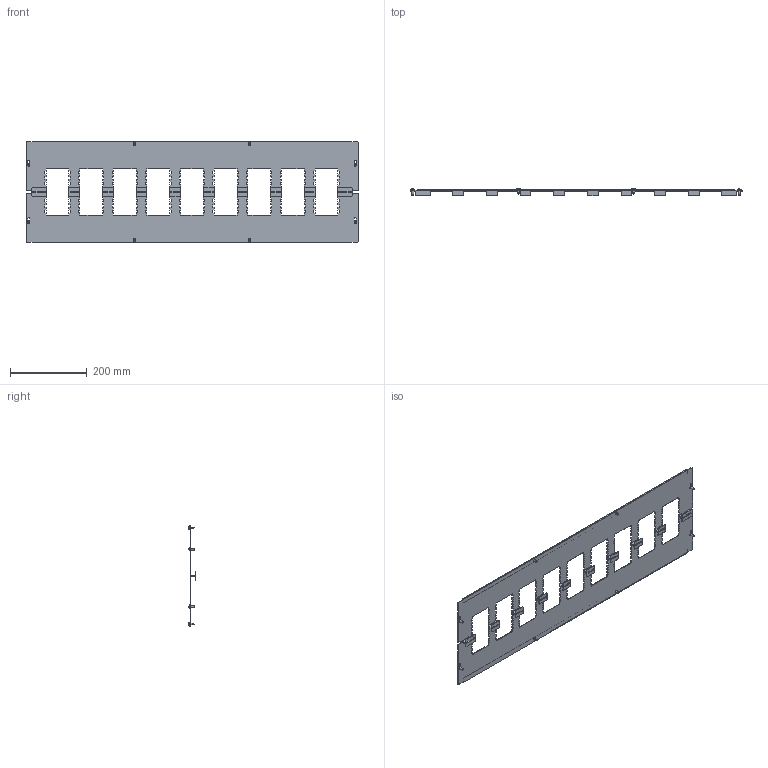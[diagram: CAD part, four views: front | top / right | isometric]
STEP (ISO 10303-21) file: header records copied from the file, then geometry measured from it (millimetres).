
FILE_DESCRIPTION(('Open CASCADE Model'),'2;1');
FILE_NAME('Open CASCADE Shape Model','2025-02-21T14:48:46',('Author'),( 'Open CASCADE'),'Open CASCADE STEP processor 7.8','Open CASCADE 7.8' ,'Unknown');
FILE_SCHEMA(('AUTOMOTIVE_DESIGN { 1 0 10303 214 1 1 1 1 }'));
Length unit declared in the file: millimetre
Products named in the file (4): Compound1; Solid1; Solid2; Solid3
Assembly tree (10 placements, depth 2):
  Compound1
    Solid1  x2
    Solid2  x4
    Solid3  x4
Bounding box: 864 x 19.31 x 265 mm (x, y, z)
Volume: 293449.7 mm3; surface area: 402207.3 mm2
Topology: 10 solids, 10 shells, 1128 faces, 3232 edges, 2116 vertices
Faces by surface type: plane 1036, cylinder 32, cone 20, sphere 16, torus 16, bspline 8
Full cylindrical faces by diameter (mm): 4.8 x4, 5 x4, 6 x4, 7 x4, 9.5 x8
Entity records: 17944 total; most frequent: CARTESIAN_POINT 3890, ORIENTED_EDGE 3074, DIRECTION 2622, EDGE_CURVE 1537, LINE 1452, VECTOR 1452, VERTEX_POINT 1019, AXIS2_PLACEMENT_3D 585
